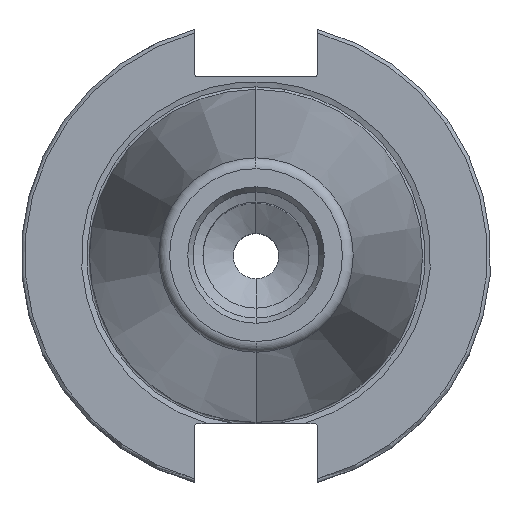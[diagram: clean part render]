
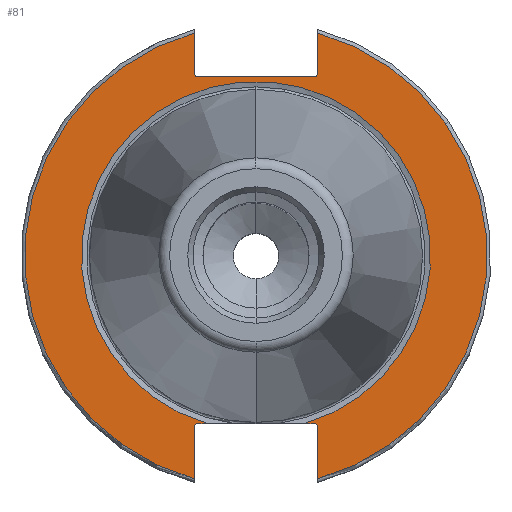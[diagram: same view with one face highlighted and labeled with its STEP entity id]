
A CAD part, top view. The second image highlights one B-rep face of the part: STEP entity #81.
In plain terms, the highlighted planar face has unit normal (0, 0, 1).
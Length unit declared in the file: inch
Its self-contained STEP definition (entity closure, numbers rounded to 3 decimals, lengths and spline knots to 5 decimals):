
#20 = CARTESIAN_POINT ( 'NONE',  ( 0.51, 0., -0.125 ) ) ;
#77 = ORIENTED_EDGE ( 'NONE', *, *, #2505, .T. ) ;
#81 = ADVANCED_FACE ( 'NONE', ( #477 ), #1104, .T. ) ;
#112 = ORIENTED_EDGE ( 'NONE', *, *, #473, .F. ) ;
#134 = CARTESIAN_POINT ( 'NONE',  ( -0.51, 1.83806, -0.125 ) ) ;
#164 = VERTEX_POINT ( 'NONE', #581 ) ;
#204 = VECTOR ( 'NONE', #1790, 39.37008 ) ;
#242 = CARTESIAN_POINT ( 'NONE',  ( 0., 0., -0.125 ) ) ;
#341 = CARTESIAN_POINT ( 'NONE',  ( 0.51, -1.4125, -0.125 ) ) ;
#347 = VECTOR ( 'NONE', #1097, 39.37008 ) ;
#375 = CARTESIAN_POINT ( 'NONE',  ( 1.9075, -1.3825, -0.125 ) ) ;
#404 = VERTEX_POINT ( 'NONE', #3255 ) ;
#456 = VERTEX_POINT ( 'NONE', #2602 ) ;
#473 = EDGE_CURVE ( 'NONE', #2573, #1310, #4000, .T. ) ;
#477 = FACE_OUTER_BOUND ( 'NONE', #953, .T. ) ;
#515 = CIRCLE ( 'NONE', #2144, 0.03 ) ;
#539 = CARTESIAN_POINT ( 'NONE',  ( 0.48, -1.3825, -0.125 ) ) ;
#576 = CARTESIAN_POINT ( 'NONE',  ( 0., 0., -0.125 ) ) ;
#581 = CARTESIAN_POINT ( 'NONE',  ( -0.48, 1.4775, -0.125 ) ) ;
#583 = CARTESIAN_POINT ( 'NONE',  ( 0.48, 1.5075, -0.125 ) ) ;
#591 = CIRCLE ( 'NONE', #3054, 0.03 ) ;
#597 = VECTOR ( 'NONE', #1627, 39.37008 ) ;
#604 = CARTESIAN_POINT ( 'NONE',  ( -0.51, -1.4125, -0.125 ) ) ;
#626 = EDGE_CURVE ( 'NONE', #837, #1042, #1872, .T. ) ;
#630 = DIRECTION ( 'NONE',  ( 0., 1., 0. ) ) ;
#653 = CARTESIAN_POINT ( 'NONE',  ( -0.48, -1.4125, -0.125 ) ) ;
#666 = CARTESIAN_POINT ( 'NONE',  ( -0.51, 1.5075, -0.125 ) ) ;
#738 = ORIENTED_EDGE ( 'NONE', *, *, #3322, .T. ) ;
#837 = VERTEX_POINT ( 'NONE', #134 ) ;
#863 = AXIS2_PLACEMENT_3D ( 'NONE', #3493, #3205, #2856 ) ;
#953 = EDGE_LOOP ( 'NONE', ( #3225, #1320, #738, #2342, #1765, #2932, #1381, #2549, #3083, #112, #1360, #3308, #1079, #77 ) ) ;
#1018 = VERTEX_POINT ( 'NONE', #3164 ) ;
#1042 = VERTEX_POINT ( 'NONE', #666 ) ;
#1079 = ORIENTED_EDGE ( 'NONE', *, *, #3739, .F. ) ;
#1097 = DIRECTION ( 'NONE',  ( 1., 0., 0. ) ) ;
#1104 = PLANE ( 'NONE',  #3151 ) ;
#1167 = VERTEX_POINT ( 'NONE', #3860 ) ;
#1196 = EDGE_CURVE ( 'NONE', #1167, #3740, #3891, .T. ) ;
#1209 = CARTESIAN_POINT ( 'NONE',  ( 0.51, 0., -0.125 ) ) ;
#1222 = DIRECTION ( 'NONE',  ( 0., 0., -1. ) ) ;
#1257 = DIRECTION ( 'NONE',  ( 0., -1., 0. ) ) ;
#1290 = CARTESIAN_POINT ( 'NONE',  ( -0.51, 0., -0.125 ) ) ;
#1310 = VERTEX_POINT ( 'NONE', #2043 ) ;
#1320 = ORIENTED_EDGE ( 'NONE', *, *, #2433, .F. ) ;
#1360 = ORIENTED_EDGE ( 'NONE', *, *, #3580, .F. ) ;
#1381 = ORIENTED_EDGE ( 'NONE', *, *, #1196, .T. ) ;
#1492 = DIRECTION ( 'NONE',  ( 0., 0., -1. ) ) ;
#1530 = DIRECTION ( 'NONE',  ( 0., -1., 0. ) ) ;
#1561 = VECTOR ( 'NONE', #2697, 39.37008 ) ;
#1613 = CARTESIAN_POINT ( 'NONE',  ( 0.51, 1.83806, -0.125 ) ) ;
#1627 = DIRECTION ( 'NONE',  ( 1., 0., 0. ) ) ;
#1764 = CARTESIAN_POINT ( 'NONE',  ( 1.9075, -1.3825, -0.125 ) ) ;
#1765 = ORIENTED_EDGE ( 'NONE', *, *, #3252, .T. ) ;
#1790 = DIRECTION ( 'NONE',  ( 0., 1., 0. ) ) ;
#1806 = DIRECTION ( 'NONE',  ( 0., 0., -1. ) ) ;
#1872 = LINE ( 'NONE', #1290, #3019 ) ;
#1944 = EDGE_CURVE ( 'NONE', #3904, #1310, #2759, .T. ) ;
#1954 = CIRCLE ( 'NONE', #3328, 1.43979 ) ;
#1998 = VERTEX_POINT ( 'NONE', #604 ) ;
#2043 = CARTESIAN_POINT ( 'NONE',  ( 0.51, -1.83806, -0.125 ) ) ;
#2130 = DIRECTION ( 'NONE',  ( 0., 0., 1. ) ) ;
#2144 = AXIS2_PLACEMENT_3D ( 'NONE', #583, #3396, #2168 ) ;
#2163 = DIRECTION ( 'NONE',  ( 0., 0., -1. ) ) ;
#2168 = DIRECTION ( 'NONE',  ( 0., -1., 0. ) ) ;
#2215 = CIRCLE ( 'NONE', #2343, 0.03 ) ;
#2273 = CIRCLE ( 'NONE', #3710, 1.9075 ) ;
#2300 = CARTESIAN_POINT ( 'NONE',  ( -0.40209, -1.3825, -0.125 ) ) ;
#2342 = ORIENTED_EDGE ( 'NONE', *, *, #3870, .T. ) ;
#2343 = AXIS2_PLACEMENT_3D ( 'NONE', #3092, #2447, #1257 ) ;
#2354 = CARTESIAN_POINT ( 'NONE',  ( 1.9075, 0., -0.125 ) ) ;
#2373 = VERTEX_POINT ( 'NONE', #2300 ) ;
#2376 = CARTESIAN_POINT ( 'NONE',  ( -0.51, 0., -0.125 ) ) ;
#2420 = EDGE_CURVE ( 'NONE', #3740, #3904, #2215, .T. ) ;
#2433 = EDGE_CURVE ( 'NONE', #404, #837, #2273, .T. ) ;
#2447 = DIRECTION ( 'NONE',  ( 0., 0., -1. ) ) ;
#2453 = DIRECTION ( 'NONE',  ( 0., 1., 0. ) ) ;
#2461 = DIRECTION ( 'NONE',  ( 0., -1., 0. ) ) ;
#2491 = LINE ( 'NONE', #1209, #3170 ) ;
#2492 = DIRECTION ( 'NONE',  ( 0., -1., 0. ) ) ;
#2505 = EDGE_CURVE ( 'NONE', #164, #1042, #591, .T. ) ;
#2534 = EDGE_CURVE ( 'NONE', #2373, #1167, #1954, .T. ) ;
#2549 = ORIENTED_EDGE ( 'NONE', *, *, #2420, .T. ) ;
#2573 = VERTEX_POINT ( 'NONE', #1613 ) ;
#2602 = CARTESIAN_POINT ( 'NONE',  ( -0.48, -1.3825, -0.125 ) ) ;
#2697 = DIRECTION ( 'NONE',  ( 1., 0., 0. ) ) ;
#2735 = DIRECTION ( 'NONE',  ( 0., 1., 0. ) ) ;
#2759 = LINE ( 'NONE', #20, #3247 ) ;
#2788 = DIRECTION ( 'NONE',  ( 0., -1., 0. ) ) ;
#2839 = CIRCLE ( 'NONE', #3893, 0.03 ) ;
#2856 = DIRECTION ( 'NONE',  ( 0., 1., 0. ) ) ;
#2911 = LINE ( 'NONE', #375, #597 ) ;
#2932 = ORIENTED_EDGE ( 'NONE', *, *, #2534, .T. ) ;
#2997 = CARTESIAN_POINT ( 'NONE',  ( 1.9075, 1.4775, -0.125 ) ) ;
#3019 = VECTOR ( 'NONE', #1530, 39.37008 ) ;
#3054 = AXIS2_PLACEMENT_3D ( 'NONE', #3422, #2163, #2461 ) ;
#3083 = ORIENTED_EDGE ( 'NONE', *, *, #1944, .T. ) ;
#3092 = CARTESIAN_POINT ( 'NONE',  ( 0.48, -1.4125, -0.125 ) ) ;
#3151 = AXIS2_PLACEMENT_3D ( 'NONE', #2354, #2130, #2788 ) ;
#3164 = CARTESIAN_POINT ( 'NONE',  ( 0.51, 1.5075, -0.125 ) ) ;
#3170 = VECTOR ( 'NONE', #2453, 39.37008 ) ;
#3205 = DIRECTION ( 'NONE',  ( 0., 0., -1. ) ) ;
#3225 = ORIENTED_EDGE ( 'NONE', *, *, #626, .F. ) ;
#3247 = VECTOR ( 'NONE', #2492, 39.37008 ) ;
#3252 = EDGE_CURVE ( 'NONE', #456, #2373, #2911, .T. ) ;
#3255 = CARTESIAN_POINT ( 'NONE',  ( -0.51, -1.83806, -0.125 ) ) ;
#3274 = LINE ( 'NONE', #2376, #204 ) ;
#3308 = ORIENTED_EDGE ( 'NONE', *, *, #3494, .T. ) ;
#3322 = EDGE_CURVE ( 'NONE', #404, #1998, #3274, .T. ) ;
#3328 = AXIS2_PLACEMENT_3D ( 'NONE', #242, #1492, #2735 ) ;
#3396 = DIRECTION ( 'NONE',  ( 0., 0., -1. ) ) ;
#3413 = VERTEX_POINT ( 'NONE', #3924 ) ;
#3422 = CARTESIAN_POINT ( 'NONE',  ( -0.48, 1.5075, -0.125 ) ) ;
#3493 = CARTESIAN_POINT ( 'NONE',  ( 0., 0., -0.125 ) ) ;
#3494 = EDGE_CURVE ( 'NONE', #1018, #3413, #515, .T. ) ;
#3580 = EDGE_CURVE ( 'NONE', #1018, #2573, #2491, .T. ) ;
#3631 = LINE ( 'NONE', #2997, #1561 ) ;
#3710 = AXIS2_PLACEMENT_3D ( 'NONE', #576, #1806, #630 ) ;
#3739 = EDGE_CURVE ( 'NONE', #164, #3413, #3631, .T. ) ;
#3740 = VERTEX_POINT ( 'NONE', #539 ) ;
#3750 = DIRECTION ( 'NONE',  ( 0., -1., 0. ) ) ;
#3860 = CARTESIAN_POINT ( 'NONE',  ( 0.40209, -1.3825, -0.125 ) ) ;
#3870 = EDGE_CURVE ( 'NONE', #1998, #456, #2839, .T. ) ;
#3891 = LINE ( 'NONE', #1764, #347 ) ;
#3893 = AXIS2_PLACEMENT_3D ( 'NONE', #653, #1222, #3750 ) ;
#3904 = VERTEX_POINT ( 'NONE', #341 ) ;
#3924 = CARTESIAN_POINT ( 'NONE',  ( 0.48, 1.4775, -0.125 ) ) ;
#4000 = CIRCLE ( 'NONE', #863, 1.9075 ) ;
